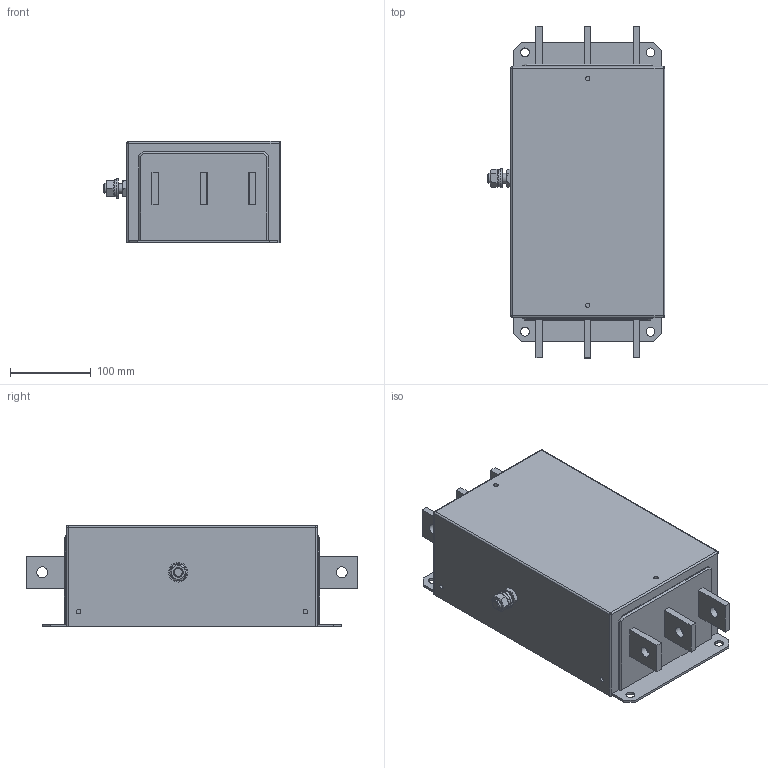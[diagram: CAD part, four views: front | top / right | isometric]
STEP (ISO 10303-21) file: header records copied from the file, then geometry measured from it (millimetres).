
FILE_DESCRIPTION((''),'2;1');
FILE_NAME('P:\Construction\Filter_Marketing\FN\FN3270\FN3270H-800-1000-99\FN3270H-800...1000-99_Marketing.stp','2013-11-26T11:14:43',('erika.jenzer'),(''),'Autodesk Inventor 2013','Autodesk Inventor 2013','');
FILE_SCHEMA(('AUTOMOTIVE_DESIGN { 1 0 10303 214 1 1 1 1 }'));
Length unit declared in the file: millimetre
Products named in the file (1): FN3270H-800...1000-99_Marketing
Bounding box: 219 x 410 x 125 mm (x, y, z)
Volume: 7585493 mm3; surface area: 297834.2 mm2
Topology: 1 solids, 2 shells, 182 faces, 441 edges, 285 vertices
Faces by surface type: plane 130, cylinder 33, cone 15, sphere 4
Full cylindrical faces by diameter (mm): 5.5 x6, 11 x4, 11.053 x1, 12 x3, 13 x2, 13.5 x6, 24 x1
Entity records: 5212 total; most frequent: CARTESIAN_POINT 919, DIRECTION 822, ORIENTED_EDGE 800, EDGE_CURVE 400, VECTOR 284, LINE 284, VERTEX_POINT 276, AXIS2_PLACEMENT_3D 269
